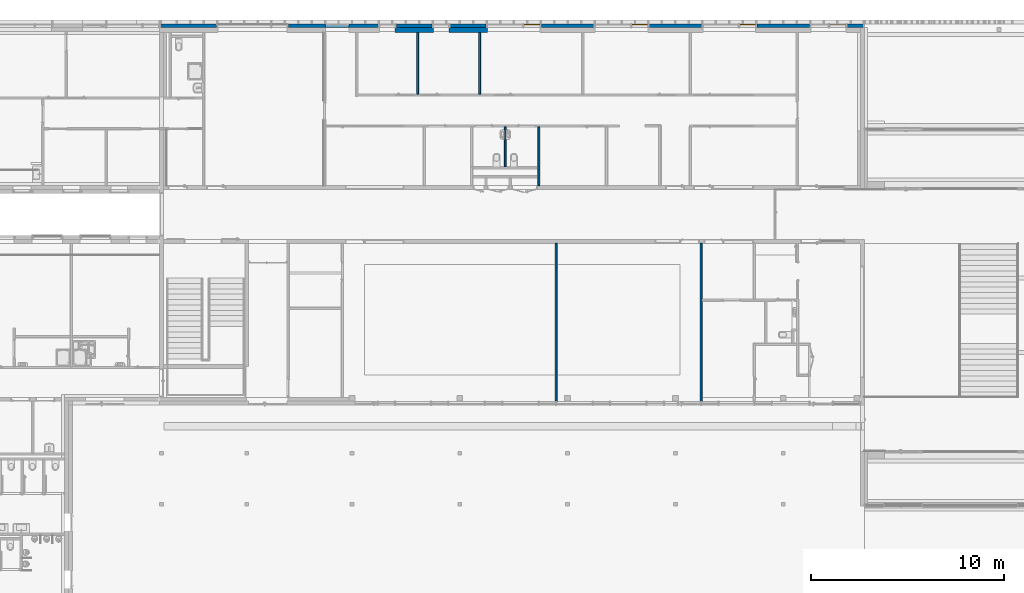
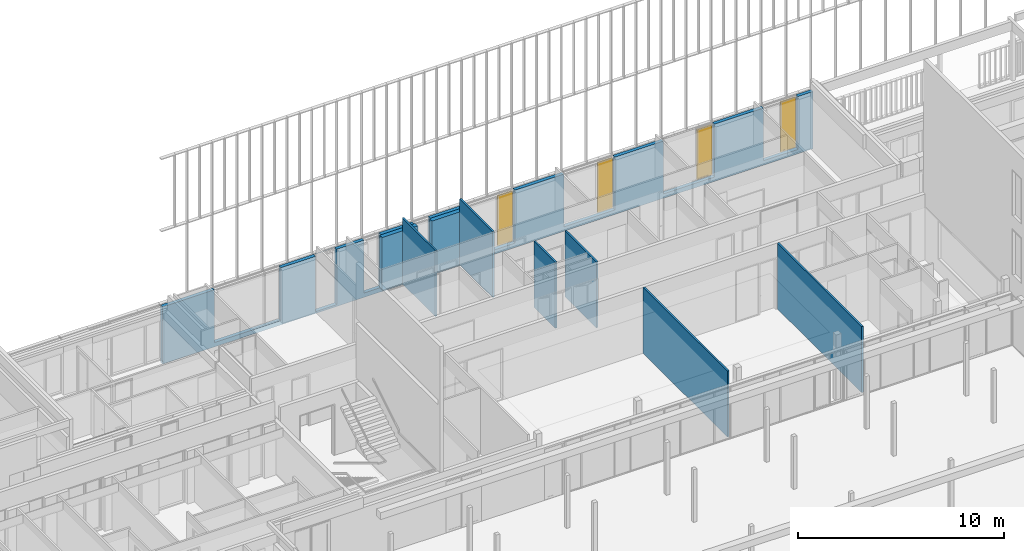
# One storey, part 143 of 240: 9 walls, 4 windows, 14 openings.
"""IFC2X3 building model written with IfcOpenShell, lengths in centimetres."""

import ifcopenshell
import ifcopenshell.guid

model = None  # the IFC model being written
_history = None  # IfcOwnerHistory: only IFC2X3 demands one
_inside = {}  # id of a spatial element -> (the spatial element, [elements in it])
_under = {}  # id of a project, library or spatial element -> (it, [spatial elements below it])
_declared = {}  # id of a project -> (the project, [libraries it declares])
_typed = {}  # id of a type object -> (the type object, [elements of that type])
_made_of = {}  # id of a material, layer set ... -> (it, [elements and type objects made of it])


def new_model(schema):
    """Start an empty IFC model of exactly this schema.

    Asked for "IFC4X3", IfcOpenShell would pick the latest addendum, in which some entities
    have other attributes; the version numbers below select the first issue.
    IFC2X3 requires an IfcOwnerHistory on every rooted entity: one is made here for all.
    """
    global model, _history
    if schema == "IFC4X3":
        model = ifcopenshell.file(schema_version=(4, 3, 0, 0))
    else:
        model = ifcopenshell.file(schema=schema)
    _inside.clear()
    _under.clear()
    _declared.clear()
    _typed.clear()
    _made_of.clear()
    _history = None
    if model.schema == "IFC2X3":
        org = make("IfcOrganization", Name="unknown")
        user = make(
            "IfcPersonAndOrganization",
            ThePerson=make("IfcPerson", FamilyName="unknown"),
            TheOrganization=org,
        )
        app = make(
            "IfcApplication",
            ApplicationDeveloper=org,
            Version="unknown",
            ApplicationFullName="unknown",
            ApplicationIdentifier="unknown",
        )
        _history = make(
            "IfcOwnerHistory",
            OwningUser=user,
            OwningApplication=app,
            ChangeAction="ADDED",
            CreationDate=0,
        )
    return model


def make(cls, **values):
    """One entity of the class cls with the attributes given. An attribute that is None is left unset."""
    return model.create_entity(
        cls, **{name: value for name, value in values.items() if value is not None}
    )


def entity(cls, *values):
    """Any entity or typed value of the class cls, its attributes in the order of the schema. None: left unset."""
    e = model.create_entity(cls)
    for i, value in enumerate(values):
        if value is not None:
            e[i] = value
    return e


def rooted(cls, **values):
    """An entity with a GlobalId (a new one), such as an element, a storey or a relation."""
    return make(cls, GlobalId=ifcopenshell.guid.new(), OwnerHistory=_history, **values)


def si_unit(unit_type, name, prefix=None):
    """IfcSIUnit, for example si_unit("LENGTHUNIT", "METRE", prefix="MILLI")."""
    return make("IfcSIUnit", UnitType=unit_type, Prefix=prefix, Name=name)


def converted_unit(unit_type, name, factor, base, dimensions=None, offset=None):
    """IfcConversionBasedUnit, such as the inch: factor (a typed value) times the base unit."""
    return make(
        "IfcConversionBasedUnit"
        if offset is None
        else "IfcConversionBasedUnitWithOffset",
        ConversionOffset=offset,
        Dimensions=None
        if dimensions is None
        else entity("IfcDimensionalExponents", *dimensions),
        UnitType=unit_type,
        Name=name,
        ConversionFactor=make(
            "IfcMeasureWithUnit", ValueComponent=factor, UnitComponent=base
        ),
    )


def derived_unit(unit_type, elements):
    """IfcDerivedUnit: a product of units, each with its exponent."""
    return make(
        "IfcDerivedUnit",
        Elements=[
            make("IfcDerivedUnitElement", Unit=unit, Exponent=power)
            for unit, power in elements
        ],
        UnitType=unit_type,
    )


def assignment(units):
    """IfcUnitAssignment: the units of a project."""
    return None if units is None else make("IfcUnitAssignment", Units=units)


def point(xyz):
    """IfcCartesianPoint."""
    return None if xyz is None else make("IfcCartesianPoint", Coordinates=xyz)


def direction(xyz):
    """IfcDirection."""
    return None if xyz is None else make("IfcDirection", DirectionRatios=xyz)


def frame(location, z_axis=None, x_axis=None):
    """IfcAxis2Placement3D, a coordinate frame: its origin and axes. An axis left out is left unset."""
    return make(
        "IfcAxis2Placement3D",
        Location=point(location),
        Axis=direction(z_axis),
        RefDirection=direction(x_axis),
    )


def frame_2d(location, x_axis=None):
    """IfcAxis2Placement2D, a coordinate frame in the plane: its origin and x axis."""
    return make(
        "IfcAxis2Placement2D", Location=point(location), RefDirection=direction(x_axis)
    )


def origin():
    """The frame at (0, 0, 0) with its axes left unset."""
    return frame((0.0, 0.0, 0.0))


def place(relative_to, where):
    """IfcLocalPlacement: puts the frame where relative to a parent placement (None: the world)."""
    return make(
        "IfcLocalPlacement", PlacementRelTo=relative_to, RelativePlacement=where
    )


def context(
    kind, dimensions, precision=None, world=None, true_north=None, identifier=None
):
    """IfcGeometricRepresentationContext, for example the 3D "Model" context."""
    return make(
        "IfcGeometricRepresentationContext",
        ContextIdentifier=identifier,
        ContextType=kind,
        CoordinateSpaceDimension=dimensions,
        Precision=precision,
        WorldCoordinateSystem=world,
        TrueNorth=true_north,
    )


def subcontext(parent, identifier, kind, view, scale=None):
    """IfcGeometricRepresentationSubContext, for example "Body" below "Model"."""
    return make(
        "IfcGeometricRepresentationSubContext",
        ContextIdentifier=identifier,
        ContextType=kind,
        ParentContext=parent,
        TargetScale=scale,
        TargetView=view,
    )


def project(units=None, contexts=None):
    """IfcProject with its units and contexts."""
    return rooted(
        "IfcProject",
        Name="project",
        RepresentationContexts=contexts,
        UnitsInContext=assignment(units),
    )


def spatial(cls, under=None, at=None, **own):
    """A site, building, storey or space (cls), placed at a placement, below another one or the project."""
    s = rooted(cls, ObjectPlacement=at, **own)
    if under is not None:
        _under.setdefault(under.id(), (under, []))[1].append(s)
    return s


def polyline(points):
    """IfcPolyline through the points."""
    return make("IfcPolyline", Points=[point(p) for p in points])


def profile(cls, at=None, kind="AREA", **sizes):
    """A parametric profile (cls). Its sizes go by their IFC names, for example OverallWidth=200.0."""
    return make(cls, ProfileType=kind, Position=at, **sizes)


def rectangle(**sizes):
    """IfcRectangleProfileDef."""
    return profile("IfcRectangleProfileDef", **sizes)


def extrude(swept, where, along, depth):
    """IfcExtrudedAreaSolid: the profile swept, set in the frame where, extruded along a direction by depth."""
    return make(
        "IfcExtrudedAreaSolid",
        SweptArea=swept,
        Position=where,
        ExtrudedDirection=direction(along),
        Depth=depth,
    )


def clip(a, b, op="DIFFERENCE"):
    """IfcBooleanClippingResult: the solid a cut by the half space b."""
    return make(
        "IfcBooleanClippingResult", Operator=op, FirstOperand=a, SecondOperand=b
    )


def bounded_halfspace(plane, agree, where, boundary):
    """IfcPolygonalBoundedHalfSpace: a half space limited to a polygon's prism."""
    return make(
        "IfcPolygonalBoundedHalfSpace",
        BaseSurface=make("IfcPlane", Position=plane),
        AgreementFlag=agree,
        Position=where,
        PolygonalBoundary=boundary,
    )


def faces_of(points, faces, orient=None, outer=None):
    """IfcFace entities. A face is a list of loops; a loop is a list of indices into points, from 0.

    orient and outer hold one flag for each loop. By default every Orientation is true, the
    first loop of a face is its IfcFaceOuterBound and the others are IfcFaceBound.
    """
    made = []
    for i, loops in enumerate(faces):
        bounds = []
        for j, loop in enumerate(loops):
            is_outer = j == 0 if outer is None else outer[i][j]
            bounds.append(
                make(
                    "IfcFaceOuterBound" if is_outer else "IfcFaceBound",
                    Bound=make("IfcPolyLoop", Polygon=[points[k] for k in loop]),
                    Orientation=True if orient is None else orient[i][j],
                )
            )
        made.append(make("IfcFace", Bounds=bounds))
    return made


def faceted_brep(points, faces, orient=None, outer=None, voids=None):
    """IfcFacetedBrep: a solid bounded by flat faces; with voids (closed shells), ...WithVoids."""
    shared = [point(p) for p in points]
    hull = make("IfcClosedShell", CfsFaces=faces_of(shared, faces, orient, outer))
    if voids is None:
        return make("IfcFacetedBrep", Outer=hull)
    return make(
        "IfcFacetedBrepWithVoids",
        Outer=hull,
        Voids=[
            make(cls, CfsFaces=faces_of(shared, fs, o, b)) for cls, fs, o, b in voids
        ],
    )


def shape(context_of_items, identifier, shape_type, items):
    """IfcShapeRepresentation: the items that make up one representation, for example the "Body"."""
    return make(
        "IfcShapeRepresentation",
        ContextOfItems=context_of_items,
        RepresentationIdentifier=identifier,
        RepresentationType=shape_type,
        Items=items,
    )


def source(mapping_origin, context_of_items, identifier, shape_type, items):
    """IfcRepresentationMap: a shape defined once, which mapped items show again and again."""
    return make(
        "IfcRepresentationMap",
        MappingOrigin=mapping_origin,
        MappedRepresentation=shape(context_of_items, identifier, shape_type, items),
    )


def transform(
    local_origin,
    x_axis=None,
    y_axis=None,
    z_axis=None,
    scale=None,
    scale2=None,
    scale3=None,
    uniform=True,
):
    """IfcCartesianTransformationOperator3D, or its non-uniform kind. x_axis, y_axis, z_axis: its Axis1, 2, 3."""
    if uniform:
        return make(
            "IfcCartesianTransformationOperator3D",
            Axis1=direction(x_axis),
            Axis2=direction(y_axis),
            LocalOrigin=point(local_origin),
            Scale=scale,
            Axis3=direction(z_axis),
        )
    return make(
        "IfcCartesianTransformationOperator3DnonUniform",
        Axis1=direction(x_axis),
        Axis2=direction(y_axis),
        LocalOrigin=point(local_origin),
        Scale=scale,
        Axis3=direction(z_axis),
        Scale2=scale2,
        Scale3=scale3,
    )


def mapped(mapping_source, mapping_target):
    """IfcMappedItem: shows the shape of a source again, moved by a transform."""
    return make(
        "IfcMappedItem", MappingSource=mapping_source, MappingTarget=mapping_target
    )


def material(Name=None, Category=None):
    """IfcMaterial."""
    return make("IfcMaterial", Name=Name, Category=Category)


def material_list(materials):
    """IfcMaterialList."""
    return make("IfcMaterialList", Materials=materials)


def layer(
    of_material, thickness, ventilated=None, Name=None, Category=None, Priority=None
):
    """IfcMaterialLayer: one layer of a wall or slab, of a material (None: an air gap)."""
    return make(
        "IfcMaterialLayer",
        Material=of_material,
        LayerThickness=thickness,
        IsVentilated=ventilated,
        Name=Name,
        Category=Category,
        Priority=Priority,
    )


def layer_set(layers, Name=None):
    """IfcMaterialLayerSet."""
    return make("IfcMaterialLayerSet", MaterialLayers=layers, LayerSetName=Name)


def layer_usage(for_layer_set, set_direction, sense, offset, extent=None):
    """IfcMaterialLayerSetUsage: how a layer set lies in its element."""
    return make(
        "IfcMaterialLayerSetUsage",
        ForLayerSet=for_layer_set,
        LayerSetDirection=set_direction,
        DirectionSense=sense,
        OffsetFromReferenceLine=offset,
        ReferenceExtent=extent,
    )


def made_of(thing, what):
    """Note that an element or type object is made of a material, layer set ...; save() writes the relation."""
    if what is not None:
        _made_of.setdefault(what.id(), (what, []))[1].append(thing)
    return thing


def type_object(cls, material=None, **own):
    """A type object (cls), such as IfcWallType, which elements share."""
    return made_of(rooted(cls, **own), material)


def type_shapes(of_type, sources):
    """Give a type object the sources (RepresentationMaps) that its elements show as mapped items."""
    of_type.RepresentationMaps = sources


def element(
    cls,
    number,
    at=None,
    inside=None,
    cuts=None,
    type_object=None,
    material=None,
    context=None,
    identifier="Body",
    shape_type=None,
    held_by="IfcProductDefinitionShape",
    body=None,
    shapes=None,
    **own,
):
    """One element of the class cls, such as IfcWall. Its Tag is "e" and its number.

    at: its placement. inside: the storey or other place that contains it. cuts: it is an
    opening in that element (IfcRelVoidsElement). A single representation is given by context,
    identifier, shape_type and body (its items); several are given by shapes. held_by: the class
    of the entity that holds the representations. save() writes the other relations.
    """
    e = rooted(cls, Tag="e%d" % number, ObjectPlacement=at, **own)
    if body is not None:
        shapes = [shape(context, identifier, shape_type, body)]
    if shapes is not None:
        e.Representation = make(held_by, Representations=shapes)
    if inside is not None:
        _inside.setdefault(inside.id(), (inside, []))[1].append(e)
    if cuts is not None:
        rooted(
            "IfcRelVoidsElement", RelatingBuildingElement=cuts, RelatedOpeningElement=e
        )
    if type_object is not None:
        _typed.setdefault(type_object.id(), (type_object, []))[1].append(e)
    return made_of(e, material)


def fill(opening, filler):
    """IfcRelFillsElement: the door or window that sits in an opening."""
    return rooted(
        "IfcRelFillsElement",
        RelatingOpeningElement=opening,
        RelatedBuildingElement=filler,
    )


def aggregate(whole, parts):
    """IfcRelAggregates: a whole, such as a stair, and the parts it consists of."""
    return rooted("IfcRelAggregates", RelatingObject=whole, RelatedObjects=parts)


def save(model, path):
    """Write the relations noted so far, then the file.

    IfcRelAggregates (storeys below a building ...), IfcRelContainedInSpatialStructure (elements
    in a storey), IfcRelDefinesByType, IfcRelAssociatesMaterial and IfcRelDeclares: one each for
    every whole, place, type object, material and project.
    """
    for whole, parts in _under.values():
        aggregate(whole, parts)
    for where, things in _inside.values():
        rooted(
            "IfcRelContainedInSpatialStructure",
            RelatedElements=things,
            RelatingStructure=where,
        )
    for kind, things in _typed.values():
        rooted("IfcRelDefinesByType", RelatedObjects=things, RelatingType=kind)
    for what, things in _made_of.values():
        rooted("IfcRelAssociatesMaterial", RelatedObjects=things, RelatingMaterial=what)
    for by, libraries in _declared.values():
        rooted("IfcRelDeclares", RelatingContext=by, RelatedDefinitions=libraries)
    model.write(path)


model = new_model("IFC2X3")

# Units and contexts
model_context = context("Model", 3, precision=0.001, world=origin(), true_north=direction((6.12303176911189e-17, 1.0)))
body_context = subcontext(model_context, "Body", "Model", "MODEL_VIEW")
ifc_project = project(units=[si_unit("LENGTHUNIT", "METRE", prefix="CENTI"), si_unit("AREAUNIT", "SQUARE_METRE"), si_unit("VOLUMEUNIT", "CUBIC_METRE"), converted_unit("PLANEANGLEUNIT", "DEGREE", entity("IfcRatioMeasure", 0.0174532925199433), si_unit("PLANEANGLEUNIT", "RADIAN"), dimensions=[0, 0, 0, 0, 0, 0, 0]), si_unit("MASSUNIT", "GRAM", prefix="KILO"), derived_unit("MASSDENSITYUNIT", [(si_unit("MASSUNIT", "GRAM", prefix="KILO"), 1), (si_unit("LENGTHUNIT", "METRE"), -3)]), si_unit("TIMEUNIT", "SECOND"), si_unit("FREQUENCYUNIT", "HERTZ"), si_unit("THERMODYNAMICTEMPERATUREUNIT", "DEGREE_CELSIUS"), derived_unit("THERMALTRANSMITTANCEUNIT", [(si_unit("MASSUNIT", "GRAM", prefix="KILO"), 1), (si_unit("THERMODYNAMICTEMPERATUREUNIT", "KELVIN"), -1), (si_unit("TIMEUNIT", "SECOND"), -3)]), derived_unit("VOLUMETRICFLOWRATEUNIT", [(si_unit("LENGTHUNIT", "METRE"), 3), (si_unit("TIMEUNIT", "SECOND"), -1)]), si_unit("ELECTRICCURRENTUNIT", "AMPERE"), si_unit("ELECTRICVOLTAGEUNIT", "VOLT"), si_unit("POWERUNIT", "WATT"), si_unit("FORCEUNIT", "NEWTON", prefix="KILO"), si_unit("ILLUMINANCEUNIT", "LUX"), si_unit("LUMINOUSFLUXUNIT", "LUMEN"), si_unit("LUMINOUSINTENSITYUNIT", "CANDELA"), derived_unit("USERDEFINED", [(si_unit("MASSUNIT", "GRAM", prefix="KILO"), -1), (si_unit("LENGTHUNIT", "METRE"), -2), (si_unit("TIMEUNIT", "SECOND"), 3), (si_unit("LUMINOUSFLUXUNIT", "LUMEN"), 1)]), derived_unit("LINEARVELOCITYUNIT", [(si_unit("LENGTHUNIT", "METRE"), 1), (si_unit("TIMEUNIT", "SECOND"), -1)]), si_unit("PRESSUREUNIT", "PASCAL"), derived_unit("USERDEFINED", [(si_unit("LENGTHUNIT", "METRE"), -2), (si_unit("MASSUNIT", "GRAM", prefix="KILO"), 1), (si_unit("TIMEUNIT", "SECOND"), -2)])], contexts=[model_context])

# Site, building, storey
site_placement = place(None, frame((-2781.94577612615, 7442.24238424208, 0.0)))
site = spatial("IfcSite", under=ifc_project, at=site_placement, Name="Default", CompositionType="ELEMENT")
building_placement = place(site_placement, origin())
building = spatial("IfcBuilding", under=site, at=building_placement, CompositionType="ELEMENT")
storey_placement = place(building_placement, origin())
storey = spatial("IfcBuildingStorey", under=building, at=storey_placement, Name="N00 - COO", CompositionType="ELEMENT", Elevation=0.0)

# Walls
ifc_material_1 = material(Name="01 - Maçonnerie")
ifc_layer_1 = layer(ifc_material_1, 25.0)
ifc_layer_set_1 = layer_set([ifc_layer_1], Name="Mur de base:04 - Structure - béton - 25cm")
ifc_layer_usage_1 = layer_usage(ifc_layer_set_1, "AXIS2", "NEGATIVE", 12.5)
wall_type_1 = type_object("IfcWallType", Name="Mur de base:04 - Structure - béton - 25cm", PredefinedType="STANDARD", material=ifc_layer_set_1)
wall_1_placement = place(building_placement, frame((-6726.24987760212, -2.49999999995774, 0.0), z_axis=(0.0, 0.0, 1.0), x_axis=(-1.0, 0.0, 0.0)))
element("IfcWallStandardCase", 1, at=wall_1_placement, inside=storey, type_object=wall_type_1, material=ifc_layer_usage_1, Name="Mur de base:04 - Structure - béton - 25cm", ObjectType="Mur de base:04 - Structure - béton - 25cm", context=body_context, shape_type="SweptSolid", body=[
    extrude(rectangle(XDim=199.750000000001, YDim=25.0, at=frame_2d((99.8750000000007, 0.0), x_axis=(-1.0, 0.0))), origin(), (0.0, 0.0, 1.0), 313.0),
])
ifc_layer_usage_2 = layer_usage(ifc_layer_set_1, "AXIS2", "NEGATIVE", 12.5)
wall_2_placement = place(building_placement, frame((-7006.24987760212, -2.49999999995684, 0.0), z_axis=(0.0, 0.0, 1.0), x_axis=(-1.0, 0.0, 0.0)))
element("IfcWallStandardCase", 2, at=wall_2_placement, inside=storey, type_object=wall_type_1, material=ifc_layer_usage_2, Name="Mur de base:04 - Structure - béton - 25cm", ObjectType="Mur de base:04 - Structure - béton - 25cm", context=body_context, shape_type="SweptSolid", body=[
    extrude(rectangle(XDim=199.74305525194, YDim=25.0, at=frame_2d((99.8715276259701, -1.77635683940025e-15), x_axis=(-1.0, 0.0))), origin(), (0.0, 0.0, 1.0), 313.0),
])

# Wall, openings, windows
ifc_material_2 = material(Name="Aluminium bardage")
ifc_layer_2 = layer(ifc_material_2, 0.5)
ifc_material_3 = material(Name="01 - Lame d'air")
ifc_layer_3 = layer(ifc_material_3, 1.5)
ifc_material_4 = material(Name="00 - Isolant")
ifc_layer_4 = layer(ifc_material_4, 18.0)
ifc_layer_set_2 = layer_set([ifc_layer_2, ifc_layer_3, ifc_layer_4], Name="Mur de base:04 - Parement - ITE 18cm + vide 2cm")
ifc_layer_usage_3 = layer_usage(ifc_layer_set_2, "AXIS2", "POSITIVE", -10.0)
wall_type_2 = type_object("IfcWallType", Name="Mur de base:04 - Parement - ITE 18cm + vide 2cm", PredefinedType="STANDARD", material=ifc_layer_set_2)
wall_3_placement = place(storey_placement, frame((-4772.99987760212, 20.0, -26.0), z_axis=(0.0, 0.0, 1.0), x_axis=(-1.0, 0.0, 0.0)))
wall_3 = element("IfcWallStandardCase", 3, at=wall_3_placement, inside=storey, type_object=wall_type_2, material=ifc_layer_usage_3, Name="Mur de base:04 - Parement - ITE 18cm + vide 2cm", ObjectType="Mur de base:04 - Parement - ITE 18cm + vide 2cm", context=body_context, shape_type="SweptSolid", body=[
    extrude(rectangle(XDim=3650.75000006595, YDim=20.0, at=frame_2d((1825.37500003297, -8.88178419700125e-16), x_axis=(-1.0, 0.0))), origin(), (0.0, 0.0, 1.0), 339.000000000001),
])
opening_1_placement = place(wall_3_placement, origin())
element("IfcOpeningElement", 4, at=opening_1_placement, cuts=wall_3, Name="Mur de base:04 - Parement - ITE 18cm + vide 2cm", ObjectType="Opening", context=body_context, shape_type="SweptSolid", body=[
    extrude(rectangle(XDim=313.0, YDim=194.749999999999, at=frame_2d((0.0, 4.33431068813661e-13), x_axis=(1.0, 0.0))), frame((182.374999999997, -25.24, 182.5), z_axis=(0.0, 1.0, 0.0), x_axis=(0.0, 0.0, 1.0)), (0.0, 0.0, 1.0), 50.48),
])
opening_2_placement = place(wall_3_placement, origin())
element("IfcOpeningElement", 5, at=opening_2_placement, cuts=wall_3, Name="Mur de base:04 - Parement - ITE 18cm + vide 2cm", ObjectType="Opening", context=body_context, shape_type="SweptSolid", body=[
    extrude(rectangle(XDim=313.0, YDim=286.500000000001, at=frame_2d((0.0, 0.0), x_axis=(0.0, 1.0))), frame((696.499999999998, -25.24, 182.5), z_axis=(0.0, 1.0, 0.0), x_axis=(-1.0, 0.0, 0.0)), (0.0, 0.0, 1.0), 50.48),
])
opening_3_placement = place(wall_3_placement, origin())
element("IfcOpeningElement", 6, at=opening_3_placement, cuts=wall_3, Name="Mur de base:04 - Parement - ITE 18cm + vide 2cm", ObjectType="Opening", context=body_context, shape_type="SweptSolid", body=[
    extrude(rectangle(XDim=313.0, YDim=286.500000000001, at=frame_2d((0.0, 0.0), x_axis=(0.0, 1.0))), frame((1256.5, -25.24, 182.5), z_axis=(0.0, 1.0, 0.0), x_axis=(-1.0, 0.0, 0.0)), (0.0, 0.0, 1.0), 50.48),
])
opening_4_placement = place(wall_3_placement, origin())
element("IfcOpeningElement", 7, at=opening_4_placement, cuts=wall_3, Name="Mur de base:04 - Parement - ITE 18cm + vide 2cm", ObjectType="Opening", context=body_context, shape_type="SweptSolid", body=[
    extrude(rectangle(XDim=313.0, YDim=286.500000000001, at=frame_2d((0.0, 0.0), x_axis=(0.0, 1.0))), frame((1816.5, -25.24, 182.5), z_axis=(0.0, 1.0, 0.0), x_axis=(-1.0, 0.0, 0.0)), (0.0, 0.0, 1.0), 50.48),
])
opening_5_placement = place(wall_3_placement, origin())
element("IfcOpeningElement", 8, at=opening_5_placement, cuts=wall_3, Name="Mur de base:04 - Parement - ITE 18cm + vide 2cm", ObjectType="Opening", context=body_context, shape_type="SweptSolid", body=[
    extrude(rectangle(XDim=313.0, YDim=89.9999999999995, at=frame_2d((0.0, -4.33431068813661e-13), x_axis=(1.0, 0.0))), frame((2194.75, -25.24, 182.5), z_axis=(0.0, 1.0, 0.0), x_axis=(0.0, 0.0, 1.0)), (0.0, 0.0, 1.0), 50.48),
])
opening_6_placement = place(wall_3_placement, origin())
element("IfcOpeningElement", 9, at=opening_6_placement, cuts=wall_3, Name="Mur de base:04 - Parement - ITE 18cm + vide 2cm", ObjectType="Opening", context=body_context, shape_type="SweptSolid", body=[
    extrude(rectangle(XDim=313.0, YDim=93.2499999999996, at=frame_2d((0.0, 4.33431068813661e-13), x_axis=(1.0, 0.0))), frame((2473.125, -25.24, 182.5), z_axis=(0.0, 1.0, 0.0), x_axis=(0.0, 0.0, 1.0)), (0.0, 0.0, 1.0), 50.48),
])
opening_7_placement = place(wall_3_placement, origin())
element("IfcOpeningElement", 10, at=opening_7_placement, cuts=wall_3, Name="Mur de base:04 - Parement - ITE 18cm + vide 2cm", ObjectType="Opening", context=body_context, shape_type="SweptSolid", body=[
    extrude(rectangle(XDim=313.0, YDim=93.2499999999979, at=frame_2d((4.33431068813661e-13, 0.0), x_axis=(0.0, 1.0))), frame((3033.125, -25.24, 182.5), z_axis=(0.0, 1.0, 0.0), x_axis=(-1.0, 0.0, 0.0)), (0.0, 0.0, 1.0), 50.48),
])
opening_8_placement = place(wall_3_placement, origin())
element("IfcOpeningElement", 11, at=opening_8_placement, cuts=wall_3, Name="Mur de base:04 - Parement - ITE 18cm + vide 2cm", ObjectType="Opening", context=body_context, shape_type="SweptSolid", body=[
    extrude(rectangle(XDim=313.0, YDim=286.500000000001, at=frame_2d((-8.66862137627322e-13, 0.0), x_axis=(0.0, 1.0))), frame((3216.5, -25.24, 182.5), z_axis=(0.0, 1.0, 0.0), x_axis=(-1.0, 0.0, 0.0)), (0.0, 0.0, 1.0), 50.48),
])
opening_9_placement = place(wall_3_placement, frame((2793.25, 50.449870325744, 11.0), z_axis=(0.0, 0.0, 1.0), x_axis=(-1.0, 0.0, 0.0)))
element("IfcOpeningElement", 12, at=opening_9_placement, cuts=wall_3, Name="Mur de base:04 - Parement - ITE 18cm + vide 2cm", ObjectType="Opening", context=body_context, shape_type="Brep", body=[
    faceted_brep([(2.0, 60.5498703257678, 326.0), (118.0, 60.5498703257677, 326.0), (118.0, 60.5498703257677, 0.0), (2.0, 60.5498703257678, 0.0), (2.0, 60.0, 0.0), (2.0, 60.0, 326.0), (118.0, 60.0, 0.0), (120.0, 60.0, 0.0), (120.0, 0.0, 0.0), (0.0, 0.0, 0.0), (0.0, 60.0, 0.0), (118.0, 60.0, 326.0), (120.0, 0.0, 328.0), (0.0, 0.0, 328.0), (120.0, 60.0, 328.0), (0.0, 60.0, 328.0)], [[[0, 1, 2, 3]], [[3, 4, 5, 0]], [[2, 6, 7, 8, 9, 10, 4, 3]], [[1, 11, 6, 2]], [[0, 5, 11, 1]], [[12, 13, 9, 8]], [[14, 7, 6, 11, 5, 4, 10, 15]], [[8, 7, 14, 12]], [[13, 15, 10, 9]], [[12, 14, 15, 13]]]),
])
opening_10_placement = place(wall_3_placement, frame((1763.25, 10.0, 32.5)))
opening_10 = element("IfcOpeningElement", 13, at=opening_10_placement, cuts=wall_3, Name="Ouvrant vitré:Ouvrant vitré (90cm) RDC:1", ObjectType="Opening", context=body_context, shape_type="SweptSolid", body=[
    extrude(rectangle(XDim=299.5, YDim=83.5000000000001, at=frame_2d((149.75, 41.75), x_axis=(1.0, 0.0))), frame((0.0, 0.0, 0.0), z_axis=(0.0, -1.0, 0.0), x_axis=(0.0, 0.0, 1.0)), (0.0, 0.0, 1.0), 20.0),
])
opening_11_placement = place(wall_3_placement, frame((175.0, 10.0, 32.5)))
opening_11 = element("IfcOpeningElement", 14, at=opening_11_placement, cuts=wall_3, Name="Ouvrant vitré:Ouvrant vitré (90cm) RDC:1", ObjectType="Opening", context=body_context, shape_type="SweptSolid", body=[
    extrude(rectangle(XDim=299.5, YDim=83.5000000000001, at=frame_2d((149.75, 41.75), x_axis=(1.0, 0.0))), frame((0.0, 0.0, 0.0), z_axis=(0.0, -1.0, 0.0), x_axis=(0.0, 0.0, 1.0)), (0.0, 0.0, 1.0), 20.0),
])
opening_12_placement = place(wall_3_placement, frame((1203.25, 10.0, 32.5)))
opening_12 = element("IfcOpeningElement", 15, at=opening_12_placement, cuts=wall_3, Name="Ouvrant vitré:Ouvrant vitré (90cm) RDC:1", ObjectType="Opening", context=body_context, shape_type="SweptSolid", body=[
    extrude(rectangle(XDim=299.5, YDim=83.5000000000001, at=frame_2d((149.75, 41.75), x_axis=(1.0, 0.0))), frame((0.0, 0.0, 0.0), z_axis=(0.0, -1.0, 0.0), x_axis=(0.0, 0.0, 1.0)), (0.0, 0.0, 1.0), 20.0),
])
opening_13_placement = place(wall_3_placement, frame((643.249999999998, 10.0, 32.5)))
opening_13 = element("IfcOpeningElement", 16, at=opening_13_placement, cuts=wall_3, Name="Ouvrant vitré:Ouvrant vitré (90cm) RDC:1", ObjectType="Opening", context=body_context, shape_type="SweptSolid", body=[
    extrude(rectangle(XDim=299.5, YDim=83.5000000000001, at=frame_2d((149.75, 41.75), x_axis=(1.0, 0.0))), frame((0.0, 0.0, 0.0), z_axis=(0.0, -1.0, 0.0), x_axis=(0.0, 0.0, 1.0)), (0.0, 0.0, 1.0), 20.0),
])
opening_14_placement = place(wall_3_placement, frame((2236.5, 10.0, 32.5)))
element("IfcOpeningElement", 17, at=opening_14_placement, cuts=wall_3, Name="Ouvrant vitré:Ouvrant vitré (90cm) RDC:1", ObjectType="Opening", context=body_context, shape_type="SweptSolid", body=[
    extrude(rectangle(XDim=299.5, YDim=83.5000000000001, at=frame_2d((149.75, 41.75), x_axis=(1.0, 0.0))), frame((0.0, 0.0, 0.0), z_axis=(0.0, -1.0, 0.0), x_axis=(0.0, 0.0, 1.0)), (0.0, 0.0, 1.0), 20.0),
])
ifc_material_5 = material(Name="Verre")
ifc_material_6 = material(Name="Aluminium")
ifc_material_list_1 = material_list([ifc_material_5, ifc_material_6])
ifc_material_list_2 = material_list([ifc_material_5, ifc_material_6])
window_style = type_object("IfcWindowStyle", Name="Ouvrant vitré (90cm) RDC", ConstructionType="NOTDEFINED", OperationType="NOTDEFINED", ParameterTakesPrecedence=False, Sizeable=False, material=ifc_material_list_2)
shared_shape = source(origin(), body_context, "Body", "Brep", [
    faceted_brep([(6.50000000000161, 15.2499999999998, 293.0), (77.0, 15.2500000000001, 293.0), (77.0, 15.2500000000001, 6.49999999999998), (6.50000000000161, 15.2499999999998, 6.49999999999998), (6.50000000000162, 13.2499999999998, 6.49999999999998), (6.50000000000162, 13.2499999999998, 293.0), (77.0, 13.2500000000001, 6.49999999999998), (77.0, 13.2500000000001, 293.0)], [[[0, 1, 2, 3]], [[3, 4, 5, 0]], [[2, 6, 4, 3]], [[1, 7, 6, 2]], [[5, 4, 6, 7]], [[0, 5, 7, 1]]]),
    faceted_brep([(6.50000000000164, 16.5395884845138, 293.0), (6.50000000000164, 16.5395884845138, 6.50000000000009), (77.0, 16.539588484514, 6.50000000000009), (77.0, 16.539588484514, 293.0), (3.50000000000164, 16.5395884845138, 296.0), (80.0, 16.5395884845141, 296.0), (80.0, 16.5395884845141, 3.50000000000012), (3.50000000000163, 16.5395884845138, 3.50000000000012), (3.50000000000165, 13.039588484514, 3.50000000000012), (3.50000000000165, 13.039588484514, 296.0), (80.0, 13.0395884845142, 3.50000000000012), (80.0, 13.0395884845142, 296.0), (77.0, 13.0395884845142, 6.50000000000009), (77.0, 13.0395884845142, 293.0), (6.50000000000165, 13.039588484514, 6.50000000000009), (6.50000000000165, 13.039588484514, 293.0)], [[[0, 1, 2, 3], [4, 5, 6, 7]], [[7, 8, 9, 4]], [[6, 10, 8, 7]], [[5, 11, 10, 6]], [[2, 12, 13, 3]], [[1, 14, 12, 2]], [[0, 15, 14, 1]], [[9, 8, 10, 11], [15, 13, 12, 14]], [[4, 9, 11, 5]], [[3, 13, 15, 0]]], outer=[[False, True], [True], [True], [True], [True], [True], [True], [True, False], [True], [True]]),
    faceted_brep([(5.0, 16.5395884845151, 294.5), (5.0, 16.5395884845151, 5.0), (5.0, 18.0395884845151, 5.0), (5.0, 18.0395884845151, 294.5), (78.5000000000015, 18.0395884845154, 5.0), (78.5000000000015, 18.0395884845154, 294.5), (0.0, 18.0395884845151, 0.0), (0.0, 18.0395884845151, 299.5), (83.5000000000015, 18.0395884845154, 299.5), (83.5000000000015, 18.0395884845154, 0.0), (78.5000000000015, 16.5395884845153, 5.0), (78.5000000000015, 16.5395884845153, 294.5), (3.50000000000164, 16.5395884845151, 296.0), (3.50000000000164, 16.5395884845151, 3.50000000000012), (80.0, 16.5395884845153, 3.50000000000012), (80.0, 16.5395884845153, 296.0), (3.50000000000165, 13.0395884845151, 296.0), (3.50000000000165, 13.0395884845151, 3.50000000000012), (80.0, 13.0395884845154, 3.50000000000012), (80.0, 13.0395884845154, 296.0), (0.0, 13.0395884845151, 299.5), (0.0, 13.0395884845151, 0.0), (83.5000000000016, 13.0395884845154, 0.0), (83.5000000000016, 13.0395884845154, 299.5)], [[[0, 1, 2, 3]], [[3, 2, 4, 5], [6, 7, 8, 9]], [[1, 10, 4, 2]], [[1, 0, 11, 10], [12, 13, 14, 15]], [[16, 17, 13, 12]], [[17, 18, 14, 13]], [[17, 16, 19, 18], [20, 21, 22, 23]], [[7, 6, 21, 20]], [[6, 9, 22, 21]], [[10, 11, 5, 4]], [[18, 19, 15, 14]], [[9, 8, 23, 22]], [[11, 0, 3, 5]], [[19, 16, 12, 15]], [[8, 7, 20, 23]]], outer=[[True], [False, True], [True], [False, True], [True], [True], [False, True], [True], [True], [True], [True], [True], [True], [True], [True]]),
])
type_shapes(window_style, [shared_shape])
window_1_placement = place(opening_11_placement, frame((0.0, 0.0, 0.0), z_axis=(0.0, 0.0, 1.0), x_axis=(-1.0, 0.0, 0.0)))
window_1 = element("IfcWindow", 18, at=window_1_placement, inside=storey, type_object=window_style, material=ifc_material_list_1, Name="Ouvrant vitré:Ouvrant vitré (90cm) RDC", ObjectType="Ouvrant vitré:Ouvrant vitré (90cm) RDC", OverallHeight=299.5, OverallWidth=83.5000000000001, context=body_context, shape_type="MappedRepresentation", body=[
    mapped(shared_shape, transform((0.0, 0.0, 0.0), scale=1.0)),
])
fill(opening_11, window_1)
ifc_material_list_3 = material_list([ifc_material_5, ifc_material_6])
window_2_placement = place(opening_13_placement, frame((0.0, 0.0, 0.0), z_axis=(0.0, 0.0, 1.0), x_axis=(-1.0, 0.0, 0.0)))
window_2 = element("IfcWindow", 19, at=window_2_placement, inside=storey, type_object=window_style, material=ifc_material_list_3, Name="Ouvrant vitré:Ouvrant vitré (90cm) RDC", ObjectType="Ouvrant vitré:Ouvrant vitré (90cm) RDC", OverallHeight=299.5, OverallWidth=83.5000000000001, context=body_context, shape_type="MappedRepresentation", body=[
    mapped(shared_shape, transform((0.0, 0.0, 0.0), scale=1.0)),
])
fill(opening_13, window_2)
ifc_material_list_4 = material_list([ifc_material_5, ifc_material_6])
window_3_placement = place(opening_12_placement, frame((0.0, 0.0, 0.0), z_axis=(0.0, 0.0, 1.0), x_axis=(-1.0, 0.0, 0.0)))
window_3 = element("IfcWindow", 20, at=window_3_placement, inside=storey, type_object=window_style, material=ifc_material_list_4, Name="Ouvrant vitré:Ouvrant vitré (90cm) RDC", ObjectType="Ouvrant vitré:Ouvrant vitré (90cm) RDC", OverallHeight=299.5, OverallWidth=83.5000000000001, context=body_context, shape_type="MappedRepresentation", body=[
    mapped(shared_shape, transform((0.0, 0.0, 0.0), scale=1.0)),
])
fill(opening_12, window_3)
ifc_material_list_5 = material_list([ifc_material_5, ifc_material_6])
window_4_placement = place(opening_10_placement, frame((0.0, 0.0, 0.0), z_axis=(0.0, 0.0, 1.0), x_axis=(-1.0, 0.0, 0.0)))
window_4 = element("IfcWindow", 21, at=window_4_placement, inside=storey, type_object=window_style, material=ifc_material_list_5, Name="Ouvrant vitré:Ouvrant vitré (90cm) RDC", ObjectType="Ouvrant vitré:Ouvrant vitré (90cm) RDC", OverallHeight=299.5, OverallWidth=83.5000000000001, context=body_context, shape_type="MappedRepresentation", body=[
    mapped(shared_shape, transform((0.0, 0.0, 0.0), scale=1.0)),
])
fill(opening_10, window_4)

# Walls
ifc_material_7 = material(Name="01 - Enduit/Plâtre")
ifc_layer_5 = layer(ifc_material_7, 1.3)
ifc_layer_6 = layer(ifc_material_4, 7.4)
ifc_layer_7 = layer(ifc_material_7, 1.3)
ifc_layer_set_3 = layer_set([ifc_layer_5, ifc_layer_6, ifc_layer_7], Name="Mur de base:06 - cloisons - Ba13 10cm")
ifc_layer_usage_4 = layer_usage(ifc_layer_set_3, "AXIS2", "NEGATIVE", 5.0)
wall_type_3 = type_object("IfcWallType", Name="Mur de base:06 - cloisons - Ba13 10cm", PredefinedType="STANDARD", material=ifc_layer_set_3)
wall_4_placement = place(building_placement, frame((-6766.49987760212, -335.0, 0.0), z_axis=(0.0, 0.0, 1.0), x_axis=(0.0, 1.0, 0.0)))
element("IfcWallStandardCase", 22, at=wall_4_placement, inside=storey, type_object=wall_type_3, material=ifc_layer_usage_4, Name="Mur de base:06 - cloisons - Ba13 10cm", ObjectType="Mur de base:06 - cloisons - Ba13 10cm", context=body_context, shape_type="Clipping", body=[
    clip(extrude(rectangle(XDim=320.0, YDim=9.99999999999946, at=frame_2d((160.0, -7.99360577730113e-15), x_axis=(-1.0, 0.0))), origin(), (0.0, 0.0, 1.0), 391.0), bounded_halfspace(frame((0.0, -5.0, 391.0), z_axis=(0.0, 0.0, -1.0), x_axis=(1.0, 0.0, 0.0)), True, frame((0.0, -5.0, 391.0)), polyline([(0.0, 0.0), (320.0, 0.0), (320.0, 10.0), (0.0, 10.0), (0.0, 0.0)]))),
])
ifc_layer_usage_5 = layer_usage(ifc_layer_set_3, "AXIS2", "NEGATIVE", 5.0)
wall_5_placement = place(building_placement, frame((-7088.49987760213, -335.0, 0.0), z_axis=(0.0, 0.0, 1.0), x_axis=(0.0, 1.0, 0.0)))
element("IfcWallStandardCase", 23, at=wall_5_placement, inside=storey, type_object=wall_type_3, material=ifc_layer_usage_5, Name="Mur de base:06 - cloisons - Ba13 10cm", ObjectType="Mur de base:06 - cloisons - Ba13 10cm", context=body_context, shape_type="Clipping", body=[
    clip(extrude(rectangle(XDim=320.0, YDim=9.99999999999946, at=frame_2d((160.0, -1.28785870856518e-14), x_axis=(-1.0, 0.0))), origin(), (0.0, 0.0, 1.0), 391.0), bounded_halfspace(frame((0.0, -5.0, 391.0), z_axis=(0.0, 0.0, -1.0), x_axis=(1.0, 0.0, 0.0)), True, frame((0.0, -5.0, 391.0)), polyline([(0.0, 0.0), (320.0, 0.0), (320.0, 10.0), (0.0, 10.0), (0.0, 0.0)]))),
])
ifc_layer_usage_6 = layer_usage(ifc_layer_set_3, "AXIS2", "NEGATIVE", 5.0)
wall_6_placement = place(building_placement, frame((-6458.49987760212, -505.0, 0.0), z_axis=(0.0, 0.0, 1.0), x_axis=(0.0, -1.0, 0.0)))
element("IfcWallStandardCase", 24, at=wall_6_placement, inside=storey, type_object=wall_type_3, material=ifc_layer_usage_6, Name="Mur de base:06 - cloisons - Ba13 10cm", ObjectType="Mur de base:06 - cloisons - Ba13 10cm", context=body_context, shape_type="Clipping", body=[
    clip(extrude(rectangle(XDim=305.048500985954, YDim=9.99999999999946, at=frame_2d((152.524250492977, 7.54951656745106e-15), x_axis=(-1.0, 0.0))), origin(), (0.0, 0.0, 1.0), 391.0), bounded_halfspace(frame((0.0, -5.0, 391.0), z_axis=(0.0, 0.0, -1.0), x_axis=(-1.0, 0.0, 0.0)), True, frame((0.0, -5.0, 391.0)), polyline([(0.0, 0.0), (208.0, 0.0), (218.0, 0.0), (255.048500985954, 0.0), (265.048500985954, 0.0), (305.048500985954, 0.0), (305.048500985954, 10.0), (0.0, 10.0), (0.0, 0.0)]))),
])
ifc_layer_usage_7 = layer_usage(ifc_layer_set_3, "AXIS2", "NEGATIVE", 5.0)
wall_7_placement = place(building_placement, frame((-6633.49987760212, -713.0, 0.0), z_axis=(0.0, 0.0, 1.0), x_axis=(0.0, 1.0, 0.0)))
element("IfcWallStandardCase", 25, at=wall_7_placement, inside=storey, type_object=wall_type_3, material=ifc_layer_usage_7, Name="Mur de base:06 - cloisons - Ba13 10cm", ObjectType="Mur de base:06 - cloisons - Ba13 10cm", context=body_context, shape_type="Clipping", body=[
    clip(extrude(rectangle(XDim=208.0, YDim=9.99999999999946, at=frame_2d((104.0, 0.0), x_axis=(-1.0, 0.0))), origin(), (0.0, 0.0, 1.0), 391.0), bounded_halfspace(frame((0.0, -5.0, 391.0), z_axis=(0.0, 0.0, -1.0), x_axis=(1.0, 0.0, 0.0)), True, frame((0.0, -5.0, 391.0)), polyline([(0.0, 0.0), (208.0, 0.0), (208.0, 10.0), (0.0, 10.0), (0.0, 0.0)]))),
])
ifc_layer_usage_8 = layer_usage(ifc_layer_set_3, "AXIS2", "NEGATIVE", 5.0)
wall_8_placement = place(building_placement, frame((-5616.24987760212, -1110.0, 0.0), z_axis=(0.0, 0.0, 1.0), x_axis=(0.0, -1.0, 0.0)))
element("IfcWallStandardCase", 26, at=wall_8_placement, inside=storey, type_object=wall_type_3, material=ifc_layer_usage_8, Name="Mur de base:06 - cloisons - Ba13 10cm", ObjectType="Mur de base:06 - cloisons - Ba13 10cm", context=body_context, shape_type="Clipping", body=[
    clip(extrude(rectangle(XDim=820.079033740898, YDim=9.99999999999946, at=frame_2d((410.039516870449, 1.11022302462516e-14), x_axis=(-1.0, 0.0))), origin(), (0.0, 0.0, 1.0), 391.0), bounded_halfspace(frame((0.0, -5.0, 391.0), z_axis=(0.0, 0.0, -1.0), x_axis=(-1.0, 0.0, 0.0)), True, frame((0.0, -5.0, 391.0)), polyline([(0.0, 0.0), (795.079033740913, 0.0), (795.079033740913, 10.0), (300.0, 10.0), (290.0, 10.0), (0.0, 10.0), (0.0, 0.0)]))),
])
ifc_layer_usage_9 = layer_usage(ifc_layer_set_3, "AXIS2", "NEGATIVE", 5.0)
wall_9_placement = place(building_placement, frame((-6369.49987760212, -1110.0, 0.0), z_axis=(0.0, 0.0, 1.0), x_axis=(0.0, -1.0, 0.0)))
element("IfcWallStandardCase", 27, at=wall_9_placement, inside=storey, type_object=wall_type_3, material=ifc_layer_usage_9, Name="Mur de base:06 - cloisons - Ba13 10cm", ObjectType="Mur de base:06 - cloisons - Ba13 10cm", context=body_context, shape_type="Clipping", body=[
    clip(extrude(rectangle(XDim=820.079033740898, YDim=9.99999999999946, at=frame_2d((410.039516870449, 0.0), x_axis=(-1.0, 0.0))), origin(), (0.0, 0.0, 1.0), 391.0), bounded_halfspace(frame((0.0, -5.0, 391.0), z_axis=(0.0, 0.0, -1.0), x_axis=(-1.0, 0.0, 0.0)), True, frame((0.0, -5.0, 391.0)), polyline([(0.0, 0.0), (795.079033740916, 0.0), (795.079033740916, 10.0), (0.0, 10.0), (0.0, 0.0)]))),
])

save(model, "model.ifc")
